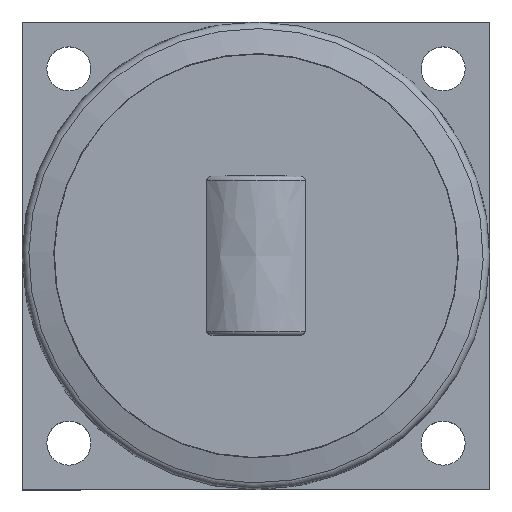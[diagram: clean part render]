
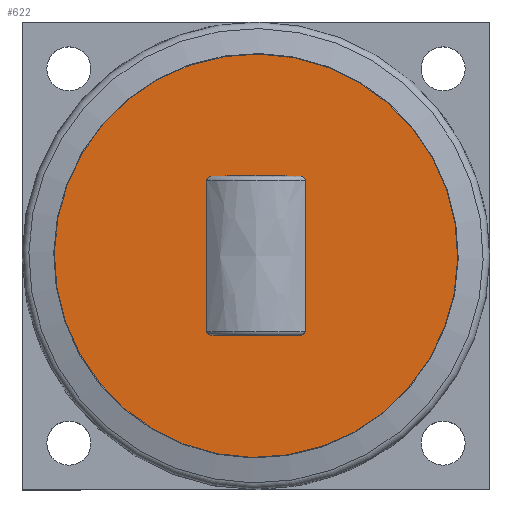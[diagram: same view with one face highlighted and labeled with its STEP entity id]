
A CAD part, top view. The second image highlights one B-rep face of the part: STEP entity #622.
In plain terms, the highlighted planar face has unit normal (0, 0, 1).
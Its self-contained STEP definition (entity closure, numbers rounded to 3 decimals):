
#399=CARTESIAN_POINT('',(-127.048,-164.089,149.929));
#400=VERTEX_POINT('',#399);
#401=CARTESIAN_POINT('',(-130.106,-166.041,149.929));
#402=VERTEX_POINT('',#401);
#403=CARTESIAN_POINT('',(-127.048,-164.089,149.929));
#404=CARTESIAN_POINT('',(-127.055,-164.293,149.929));
#405=CARTESIAN_POINT('',(-127.12,-164.52,149.929));
#406=CARTESIAN_POINT('',(-127.332,-164.934,149.929));
#407=CARTESIAN_POINT('',(-127.543,-165.171,149.929));
#408=CARTESIAN_POINT('',(-128.021,-165.547,149.929));
#409=CARTESIAN_POINT('',(-128.39,-165.728,149.929));
#410=CARTESIAN_POINT('',(-129.138,-165.969,149.929));
#411=CARTESIAN_POINT('',(-129.664,-166.041,149.929));
#412=CARTESIAN_POINT('',(-130.106,-166.041,149.929));
#413=B_SPLINE_CURVE_WITH_KNOTS('',3,(#403,#404,#405,#406,#407,#408,#409,#410,#411,#412),.UNSPECIFIED.,.F.,.U.,(4,2,2,2,4),(0.005,0.065,0.144,0.247,0.38),.UNSPECIFIED.);
#414=EDGE_CURVE('',#400,#402,#413,.T.);
#416=CARTESIAN_POINT('',(-173.367,-164.089,149.929));
#417=VERTEX_POINT('',#416);
#425=CARTESIAN_POINT('',(-170.309,-166.041,149.929));
#426=VERTEX_POINT('',#425);
#427=CARTESIAN_POINT('',(-170.309,-166.041,149.929));
#428=CARTESIAN_POINT('',(-170.752,-166.041,149.929));
#429=CARTESIAN_POINT('',(-171.278,-165.969,149.929));
#430=CARTESIAN_POINT('',(-172.025,-165.728,149.929));
#431=CARTESIAN_POINT('',(-172.395,-165.547,149.929));
#432=CARTESIAN_POINT('',(-172.872,-165.171,149.929));
#433=CARTESIAN_POINT('',(-173.083,-164.934,149.929));
#434=CARTESIAN_POINT('',(-173.296,-164.52,149.929));
#435=CARTESIAN_POINT('',(-173.36,-164.293,149.929));
#436=CARTESIAN_POINT('',(-173.367,-164.089,149.929));
#437=B_SPLINE_CURVE_WITH_KNOTS('',3,(#427,#428,#429,#430,#431,#432,#433,#434,#435,#436),.UNSPECIFIED.,.F.,.U.,(4,2,2,2,4),(1.185,1.317,1.42,1.5,1.559),.UNSPECIFIED.);
#438=EDGE_CURVE('',#426,#417,#437,.T.);
#467=CARTESIAN_POINT('',(-127.048,-92.994,149.929));
#468=VERTEX_POINT('',#467);
#469=CARTESIAN_POINT('',(-127.048,-92.994,149.929));
#470=CARTESIAN_POINT('',(-126.621,-105.244,149.929));
#471=CARTESIAN_POINT('',(-126.433,-117.241,149.929));
#472=CARTESIAN_POINT('',(-126.433,-139.841,149.929));
#473=CARTESIAN_POINT('',(-126.621,-151.838,149.929));
#474=CARTESIAN_POINT('',(-127.048,-164.089,149.929));
#475=B_SPLINE_CURVE_WITH_KNOTS('',3,(#469,#470,#471,#472,#473,#474),.UNSPECIFIED.,.F.,.U.,(4,2,4),(45.305,48.695,52.085),.UNSPECIFIED.);
#476=EDGE_CURVE('',#468,#400,#475,.T.);
#478=CARTESIAN_POINT('',(-173.367,-92.994,149.929));
#479=VERTEX_POINT('',#478);
#487=CARTESIAN_POINT('',(-173.367,-164.089,149.929));
#488=CARTESIAN_POINT('',(-173.794,-151.838,149.929));
#489=CARTESIAN_POINT('',(-173.983,-139.841,149.929));
#490=CARTESIAN_POINT('',(-173.983,-117.241,149.929));
#491=CARTESIAN_POINT('',(-173.794,-105.244,149.929));
#492=CARTESIAN_POINT('',(-173.367,-92.994,149.929));
#493=B_SPLINE_CURVE_WITH_KNOTS('',3,(#487,#488,#489,#490,#491,#492),.UNSPECIFIED.,.F.,.U.,(4,2,4),(12.842,16.232,19.622),.UNSPECIFIED.);
#494=EDGE_CURVE('',#417,#479,#493,.T.);
#505=CARTESIAN_POINT('',(-130.106,-91.041,149.929));
#506=VERTEX_POINT('',#505);
#507=CARTESIAN_POINT('',(-130.106,-91.041,149.929));
#508=CARTESIAN_POINT('',(-129.664,-91.041,149.929));
#509=CARTESIAN_POINT('',(-129.138,-91.113,149.929));
#510=CARTESIAN_POINT('',(-128.39,-91.355,149.929));
#511=CARTESIAN_POINT('',(-128.021,-91.536,149.929));
#512=CARTESIAN_POINT('',(-127.543,-91.912,149.929));
#513=CARTESIAN_POINT('',(-127.332,-92.149,149.929));
#514=CARTESIAN_POINT('',(-127.12,-92.562,149.929));
#515=CARTESIAN_POINT('',(-127.055,-92.79,149.929));
#516=CARTESIAN_POINT('',(-127.048,-92.994,149.929));
#517=B_SPLINE_CURVE_WITH_KNOTS('',3,(#507,#508,#509,#510,#511,#512,#513,#514,#515,#516),.UNSPECIFIED.,.F.,.U.,(4,2,2,2,4),(1.185,1.317,1.42,1.5,1.559),.UNSPECIFIED.);
#518=EDGE_CURVE('',#506,#468,#517,.T.);
#520=CARTESIAN_POINT('',(-170.309,-91.041,149.929));
#521=VERTEX_POINT('',#520);
#529=CARTESIAN_POINT('',(-173.367,-92.994,149.929));
#530=CARTESIAN_POINT('',(-173.36,-92.79,149.929));
#531=CARTESIAN_POINT('',(-173.296,-92.562,149.929));
#532=CARTESIAN_POINT('',(-173.083,-92.149,149.929));
#533=CARTESIAN_POINT('',(-172.872,-91.912,149.929));
#534=CARTESIAN_POINT('',(-172.395,-91.536,149.929));
#535=CARTESIAN_POINT('',(-172.025,-91.355,149.929));
#536=CARTESIAN_POINT('',(-171.278,-91.113,149.929));
#537=CARTESIAN_POINT('',(-170.752,-91.041,149.929));
#538=CARTESIAN_POINT('',(-170.309,-91.041,149.929));
#539=B_SPLINE_CURVE_WITH_KNOTS('',3,(#529,#530,#531,#532,#533,#534,#535,#536,#537,#538),.UNSPECIFIED.,.F.,.U.,(4,2,2,2,4),(0.005,0.065,0.144,0.247,0.38),.UNSPECIFIED.);
#540=EDGE_CURVE('',#479,#521,#539,.T.);
#551=CARTESIAN_POINT('',(-170.309,-91.041,149.929));
#552=DIRECTION('',(1.0,0.0,0.0));
#553=VECTOR('',#552,40.204);
#554=LINE('',#551,#553);
#555=EDGE_CURVE('',#521,#506,#554,.T.);
#566=CARTESIAN_POINT('',(-130.106,-166.041,149.929));
#567=DIRECTION('',(-1.0,0.0,0.0));
#568=VECTOR('',#567,40.204);
#569=LINE('',#566,#568);
#570=EDGE_CURVE('',#402,#426,#569,.T.);
#592=CARTESIAN_POINT('',(-61.585,-162.393,149.929));
#593=VERTEX_POINT('',#592);
#594=CARTESIAN_POINT('',(-150.208,-128.541,149.929));
#595=DIRECTION('',(0.,0.,-1.0));
#596=DIRECTION('',(-0.934,0.357,0.));
#597=AXIS2_PLACEMENT_3D('',#594,#595,#596);
#598=CIRCLE('',#597,94.868);
#599=EDGE_CURVE('',#593,#593,#598,.T.);
#604=CARTESIAN_POINT('',(-68.001,-159.942,149.929));
#605=DIRECTION('',(0.,0.,1.0));
#606=DIRECTION('',(-0.357,-0.934,0.));
#607=AXIS2_PLACEMENT_3D('',#604,#605,#606);
#608=PLANE('',#607);
#609=ORIENTED_EDGE('',*,*,#599,.F.);
#610=EDGE_LOOP('',(#609));
#611=FACE_OUTER_BOUND('',#610,.T.);
#612=ORIENTED_EDGE('',*,*,#570,.T.);
#613=ORIENTED_EDGE('',*,*,#438,.T.);
#614=ORIENTED_EDGE('',*,*,#494,.T.);
#615=ORIENTED_EDGE('',*,*,#540,.T.);
#616=ORIENTED_EDGE('',*,*,#555,.T.);
#617=ORIENTED_EDGE('',*,*,#518,.T.);
#618=ORIENTED_EDGE('',*,*,#476,.T.);
#619=ORIENTED_EDGE('',*,*,#414,.T.);
#620=EDGE_LOOP('',(#612,#613,#614,#615,#616,#617,#618,#619));
#621=FACE_BOUND('',#620,.T.);
#622=ADVANCED_FACE('',(#611,#621),#608,.T.);
